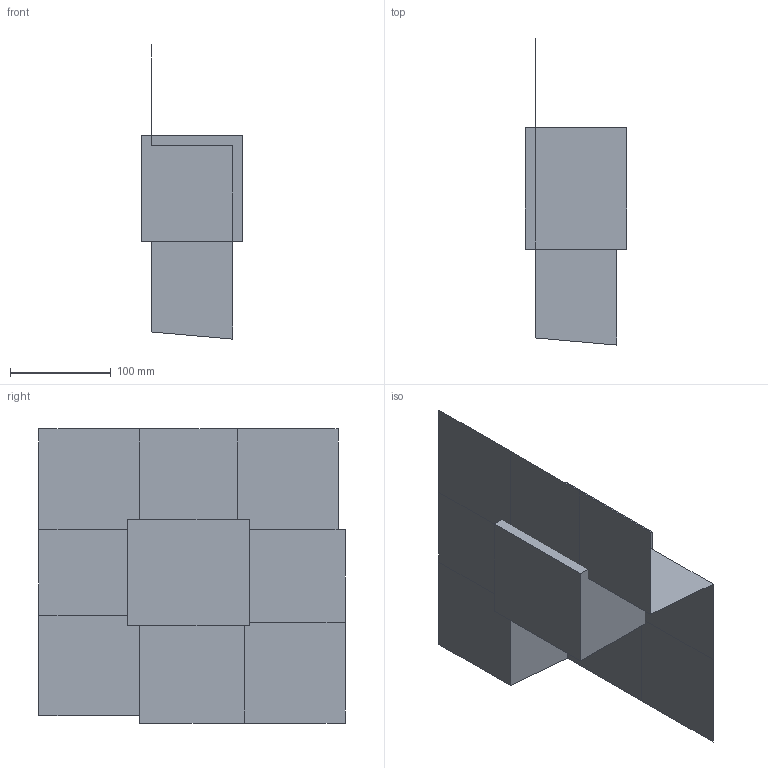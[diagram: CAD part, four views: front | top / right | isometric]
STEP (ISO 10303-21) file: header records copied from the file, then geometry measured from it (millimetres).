
FILE_DESCRIPTION(('CATIA V5 STEP Exchange'),'2;1');
FILE_NAME('C:\_Andres\UNIVERSIDAD\IQS\ASIGNATURAS\DAO\EXF\EXF-15161c\1original\Gual_Moseguí_Ej02-moldes_v11.stp','2016-03-04T15:45:36+00:00',('none'),('none'),'CATIA Version 5 Release 20 SP 1 (IN-10)','CATIA V5 STEP AP203','none');
FILE_SCHEMA(('CONFIG_CONTROL_DESIGN'));
Length unit declared in the file: millimetre
Products named in the file (1): Gual_Moseguí_Ej02-moldes_v11
Bounding box: 101 x 303.87 x 291.87 mm (x, y, z)
Volume: 2750465 mm3; surface area: 333188 mm2
Topology: 3 solids, 7 shells, 45 faces, 118 edges, 83 vertices
Faces by surface type: plane 41, cylinder 4
Entity records: 1101 total; most frequent: ORIENTED_EDGE 198, CARTESIAN_POINT 179, DIRECTION 147, EDGE_CURVE 83, VECTOR 73, LINE 73, VERTEX_POINT 56, EDGE_LOOP 49
